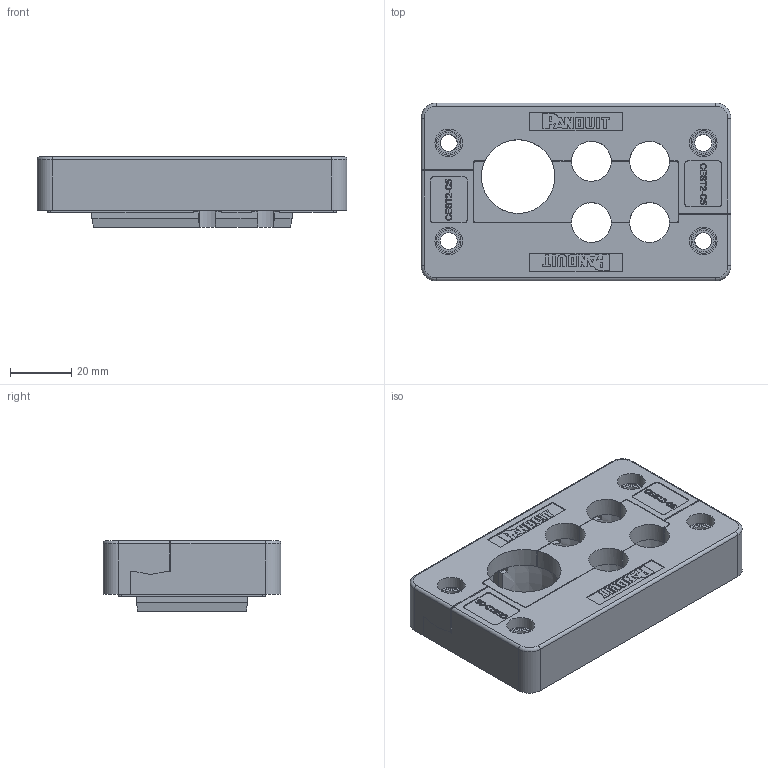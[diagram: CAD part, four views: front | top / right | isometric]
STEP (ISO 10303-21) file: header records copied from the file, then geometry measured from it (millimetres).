
FILE_DESCRIPTION(/* description */ (''),/* implementation_level */ '2;1');
FILE_NAME(/* name */ 'H:\SapWorkDir\Inventor\MP1\ConvertTempPath\87_11_121472_00_A_220620_KDL-D 10-5 ZSB.stp',/* time_stamp */ '2022-06-20T12:29:48+02:00',/* author */ ('BAUER'),/* organization */ (''),/* preprocessor_version */ 'ST-DEVELOPER v16.13',/* originating_system */ 'Autodesk Inventor 2018',/* authorisation */ '');
FILE_SCHEMA (('AUTOMOTIVE_DESIGN { 1 0 10303 214 3 1 1 }'));
Length unit declared in the file: millimetre
Products named in the file (5): 121472; KDB-10; 121420; 121421; Mittelteil 10 2-1
Assembly tree (4 placements, depth 2):
  121472
    KDB-10
    121420
    121421
    Mittelteil 10 2-1
Bounding box: 101 x 58 x 23 mm (x, y, z)
Volume: 75840.5 mm3; surface area: 43641.1 mm2
Topology: 4 solids, 4 shells, 1249 faces, 3365 edges, 2217 vertices
Faces by surface type: plane 779, bspline 219, cylinder 197, cone 29, torus 20, sphere 5
Full cylindrical faces by diameter (mm): 5 x6, 5.5 x10, 6 x2, 7 x4, 8 x4, 9 x4
Entity records: 41277 total; most frequent: CARTESIAN_POINT 10912, ORIENTED_EDGE 6636, DIRECTION 5532, EDGE_CURVE 3318, LINE 2278, VECTOR 2278, VERTEX_POINT 2207, AXIS2_PLACEMENT_3D 1627
